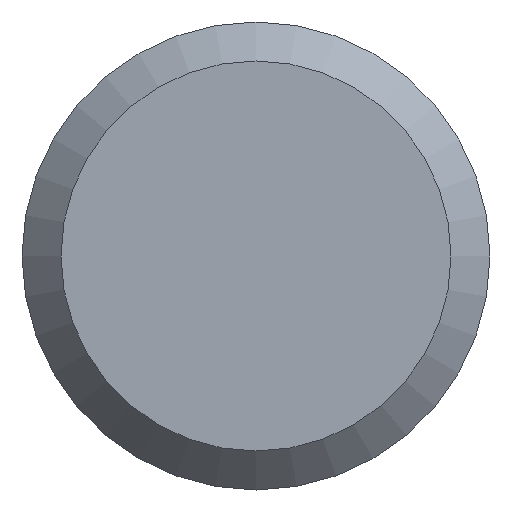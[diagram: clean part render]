
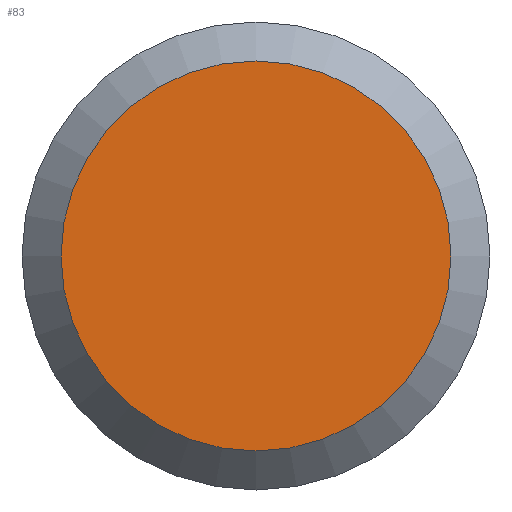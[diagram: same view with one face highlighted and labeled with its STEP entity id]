
A CAD part, front view. The second image highlights one B-rep face of the part: STEP entity #83.
In plain terms, the highlighted planar face has unit normal (0, -1, 0).
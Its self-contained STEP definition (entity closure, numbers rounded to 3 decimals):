
#83 = ADVANCED_FACE( '', ( #107 ), #108, .F. );
#107 = FACE_OUTER_BOUND( '', #141, .T. );
#108 = PLANE( '', #142 );
#141 = EDGE_LOOP( '', ( #219 ) );
#142 = AXIS2_PLACEMENT_3D( '', #220, #221, #222 );
#219 = ORIENTED_EDGE( '', *, *, #267, .T. );
#220 = CARTESIAN_POINT( '', ( 5., 0., 0. ) );
#221 = DIRECTION( '', ( 0., 1., 0. ) );
#222 = DIRECTION( '', ( 0., 0., 1. ) );
#267 = EDGE_CURVE( '', #304, #304, #305, .T. );
#304 = VERTEX_POINT( '', #364 );
#305 = CIRCLE( '', #365, 5. );
#364 = CARTESIAN_POINT( '', ( 0., 0., -5. ) );
#365 = AXIS2_PLACEMENT_3D( '', #395, #396, #397 );
#395 = CARTESIAN_POINT( '', ( 0., 0., 0. ) );
#396 = DIRECTION( '', ( 0., -1., 0. ) );
#397 = DIRECTION( '', ( 0., 0., -1. ) );
